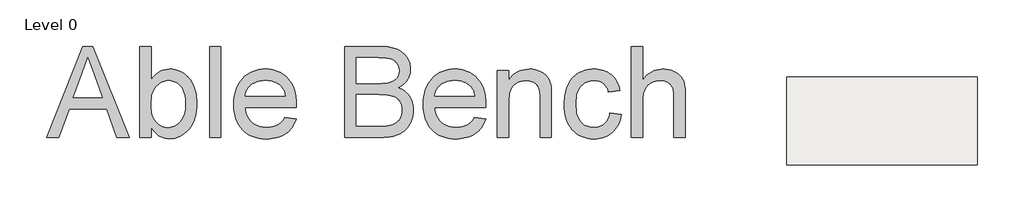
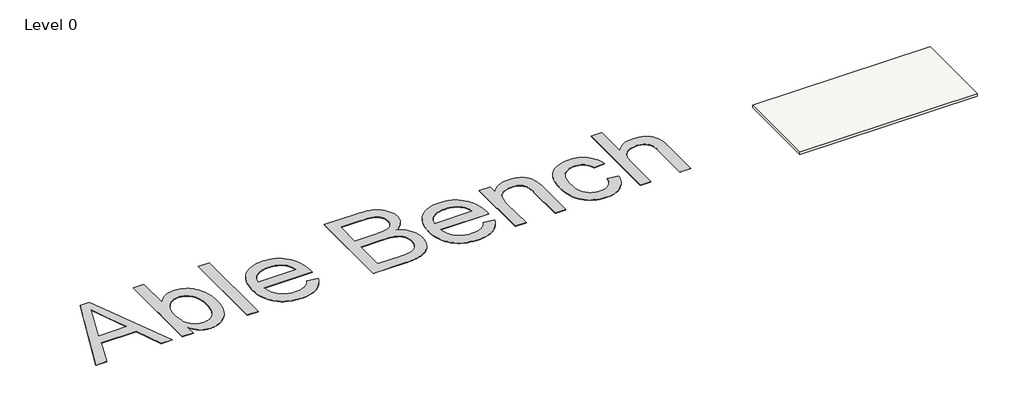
# One storey, incomplete: 1 proxy, 1 slab.
"""IFC4 building model written with IfcOpenShell, lengths in millimetres."""

from ifc_helpers import new_model, si_unit, frame, origin, origin_with_axes, place, context, project, spatial, polyline, outline, extrude, element, save

model = new_model("IFC4")

# Units and contexts
model_context = context("Model", 3, world=origin())
ifc_project = project(units=[si_unit("LENGTHUNIT", "METRE", prefix="MILLI")], contexts=[model_context])

# Site, building, storey
site = spatial("IfcSite", under=ifc_project)
building = spatial("IfcBuilding", under=site)
storey = spatial("IfcBuildingStorey", under=building, Name="Level 0", Elevation=0.0)

# Proxy
placement = place(None, origin())
element("IfcBuildingElementProxy", 1, Name="10 mm", ObjectType="10 mm", at=placement, inside=storey, context=model_context, shape_type="SweptSolid", body=[
    extrude(outline(polyline([(-186618.4644969, 70710.4267394), (-182608.5507494, 80756.0577544), (-181539.2404168, 80756.0577544), (-177529.3266694, 70710.4267394), (-178856.1543986, 70710.4267394), (-180006.3987702, 73849.6864316), (-184143.8449427, 73849.6864316), (-185291.6367676, 70710.4267394), (-186618.4644969, 70710.4267394)]), holes=[polyline([(-183682.7661754, 75105.3903085), (-180465.0249909, 75105.3903085), (-181370.014699, 77575.1047694), (-182073.8955831, 79500.3538775), (-182699.2949749, 77790.9288732), (-183682.7661754, 75105.3903085)])]), origin_with_axes(), (0.0, 0.0, 1.0), 50.0),
    extrude(outline(polyline([(-175089.042768, 70710.4267394), (-176344.7466449, 70710.4267394), (-176344.7466449, 80756.0577544), (-175089.042768, 80756.0577544), (-175089.042768, 77030.6394165), (-174889.2368594, 77315.1731472), (-174676.0952284, 77561.7690471), (-174449.6178752, 77770.4271162), (-174209.8047996, 77941.1473546), (-173956.6560016, 78073.9297622), (-173690.1714814, 78168.7743391), (-173410.3512388, 78225.6810853), (-173117.1952739, 78244.6500006), (-172952.1465496, 78240.3772045), (-172789.3204457, 78227.5588163), (-172628.7169622, 78206.1948358), (-172470.336099, 78176.2852632), (-172314.1778563, 78137.8300984), (-172160.2422339, 78090.8293414), (-172008.529232, 78035.2829922), (-171859.0388504, 77971.1910509), (-171713.9553885, 77899.3582592), (-171575.4631458, 77820.5893591), (-171443.5621221, 77734.8843505), (-171318.2523175, 77642.2432335), (-171199.5337319, 77542.6660081), (-171087.4063655, 77436.1526741), (-170981.8702181, 77322.7032318), (-170882.9252898, 77202.317681), (-170789.8626414, 77075.264269), (-170701.9733335, 76941.8112431), (-170619.2573661, 76801.9586034), (-170541.7147393, 76655.7063498), (-170469.3454531, 76503.0544823), (-170402.1495074, 76344.003001), (-170340.1269023, 76178.5519057), (-170283.2776377, 76006.7011966), (-170232.4064556, 75830.1369995), (-170188.3180977, 75650.5454401), (-170151.0125641, 75467.9265184), (-170120.4898548, 75282.2802345), (-170096.7499698, 75093.6065883), (-170079.7929091, 74901.9055799), (-170069.6186727, 74707.1772092), (-170066.2272606, 74509.4214763), (-170080.2719221, 74050.1054769), (-170122.4059069, 73617.6142063), (-170192.6292148, 73211.9476645), (-170290.9418459, 72833.1058516), (-170417.3438002, 72481.0887674), (-170571.8350777, 72155.8964121), (-170754.4156783, 71857.5287856), (-170965.0856021, 71585.9858879), (-171195.4525411, 71343.988513), (-171437.1241872, 71134.2574547), (-171690.1005404, 70956.7927131), (-171954.3816008, 70811.5942881), (-172229.9673683, 70698.6621798), (-172516.857843, 70617.9963881), (-172815.0530248, 70569.5969131), (-173124.5529138, 70553.4637548), (-173428.8603017, 70574.2720802), (-173716.3830735, 70636.6970562), (-173987.1212294, 70740.738683), (-174241.0747692, 70886.3969604), (-174478.2436929, 71073.6718886), (-174698.6280007, 71302.5634675), (-174902.2276924, 71573.0716971), (-175089.042768, 71885.1965773), (-175089.042768, 70710.4267394)]), holes=[polyline([(-175089.042768, 74450.560357), (-175083.6778223, 74157.0211817), (-175067.582985, 73884.6352211), (-175040.7582562, 73633.4024753), (-175003.2036358, 73403.3229441), (-174954.919124, 73194.3966277), (-174895.9047206, 73006.623526), (-174826.1604256, 72840.003639), (-174745.6862392, 72694.5369667), (-174599.7213934, 72487.0285288), (-174441.4171724, 72307.1878826), (-174270.7735761, 72155.0150282), (-174087.7906045, 72030.5099654), (-173892.4682577, 71933.6726944), (-173684.8065356, 71864.5032151), (-173464.8054383, 71823.0015275), (-173232.4649657, 71809.1676317), (-173041.3962545, 71819.3610286), (-172856.9187623, 71849.9412195), (-172679.0324892, 71900.9082042), (-172507.7374352, 71972.2619829), (-172343.0336003, 72064.0025554), (-172184.9209844, 72176.1299219), (-172033.3995877, 72308.6440822), (-171888.46941, 72461.5450365), (-171755.6870024, 72634.6411794), (-171640.6089157, 72827.7409058), (-171543.2351501, 73040.8442157), (-171463.5657056, 73273.9511091), (-171401.600582, 73527.061586), (-171357.3397795, 73800.1756464), (-171330.7832979, 74093.2932903), (-171321.9311374, 74406.4145176), (-171330.419248, 74726.088643), (-171355.8835799, 75024.1497012), (-171398.324133, 75300.5976921), (-171457.7409073, 75555.4326159), (-171534.1339029, 75788.6544724), (-171627.5031197, 76000.2632617), (-171737.8485577, 76190.2589838), (-171865.170217, 76358.6416387), (-172004.5246832, 76506.3692524), (-172150.968542, 76634.3998509), (-172304.5017934, 76742.7334343), (-172465.1244374, 76831.3700025), (-172632.8364741, 76900.3095555), (-172807.6379034, 76949.5520934), (-172989.5287252, 76979.0976162), (-173178.5089397, 76988.9461238), (-173369.577651, 76978.7527268), (-173554.0551432, 76948.172536), (-173731.9414162, 76897.2055512), (-173903.2364702, 76825.8517726), (-174067.9403052, 76734.1112), (-174226.052921, 76621.9838336), (-174377.5743178, 76489.4696732), (-174522.5044955, 76336.568719), (-174655.2869031, 76164.392281), (-174770.3649897, 75974.0516696), (-174867.7387553, 75765.5468846), (-174947.4081999, 75538.8779261), (-175009.3733235, 75294.0447941), (-175053.634126, 75031.0474886), (-175080.1906075, 74749.8860096), (-175089.042768, 74450.560357)])]), origin_with_axes(), (0.0, 0.0, 1.0), 50.0),
    extrude(outline(polyline([(-168653.5603991, 70710.4267394), (-168653.5603991, 80756.0577544), (-167397.8565222, 80756.0577544), (-167397.8565222, 70710.4267394), (-168653.5603991, 70710.4267394)])), origin_with_axes(), (0.0, 0.0, 1.0), 50.0),
    extrude(outline(polyline([(-160349.2374946, 72907.9085239), (-159118.0590841, 72750.9455393), (-159204.1856241, 72497.0686416), (-159306.8285329, 72257.8303816), (-159425.9878104, 72033.2307594), (-159561.6634566, 71823.2697748), (-159713.8554716, 71627.947428), (-159882.5638553, 71447.2637189), (-160067.7886078, 71281.2186476), (-160269.529729, 71129.8122139), (-160486.7908719, 70994.7305438), (-160718.5756894, 70877.6597631), (-160964.8841814, 70778.5998716), (-161225.7163481, 70697.5508696), (-161501.0721894, 70634.5127569), (-161790.9517053, 70589.4855335), (-162095.3548958, 70562.4691995), (-162414.2817609, 70553.4637548), (-162814.4683938, 70569.002937), (-163193.4251698, 70615.6204836), (-163551.1520891, 70693.3163945), (-163887.6491516, 70802.0906699), (-164202.9163572, 70941.9433096), (-164496.9537061, 71112.8743137), (-164769.7611981, 71314.8836822), (-165021.3388334, 71547.9714151), (-165247.241371, 71809.1101501), (-165443.0235703, 72095.272525), (-165608.6854313, 72406.4585398), (-165744.2269539, 72742.6681944), (-165849.6481381, 73103.901489), (-165924.948984, 73490.1584234), (-165970.1294915, 73901.4389977), (-165985.1896607, 74337.7432119), (-165969.9762074, 74788.8968295), (-165924.3358474, 75214.0687812), (-165848.2685806, 75613.259067), (-165741.7744072, 75986.4676869), (-165604.8533272, 76333.6946409), (-165437.5053404, 76654.939929), (-165239.730447, 76950.2035511), (-165011.5286468, 77219.4855074), (-164759.0696276, 77459.7584355), (-164488.523077, 77667.9949732), (-164199.888995, 77844.1951205), (-163893.1673815, 77988.3588773), (-163568.3582366, 78100.4862438), (-163225.4615602, 78180.5772198), (-162864.4773525, 78228.6318054), (-162485.4056133, 78244.6500006), (-162118.7307309, 78228.6701265), (-161769.1853539, 78180.730504), (-161436.7694823, 78100.8311331), (-161121.4831162, 77988.972014), (-160823.3262554, 77845.1531465), (-160542.2989, 77669.3745307), (-160278.40105, 77461.6361665), (-160031.6327054, 77221.938054), (-159808.3168381, 76953.2692344), (-159614.7764197, 76658.6187489), (-159451.0114502, 76337.9865975), (-159317.0219298, 75991.3727802), (-159212.8078584, 75618.7772969), (-159138.3692359, 75220.2001478), (-159093.7060624, 74795.6413327), (-159078.8183379, 74345.1008518), (-159086.1759778, 74006.6494162), (-164729.4857839, 74006.6494162), (-164702.1053999, 73748.3272777), (-164656.7524477, 73505.5634819), (-164593.4269272, 73278.3580289), (-164512.1288384, 73066.7109185), (-164412.8581812, 72870.6221509), (-164295.6149558, 72690.091726), (-164160.399162, 72525.1196437), (-164007.2108, 72375.7059042), (-163840.0352579, 72242.9234966), (-163662.8579241, 72127.84541), (-163475.6787985, 72030.4716444), (-163278.4978812, 71950.8021998), (-163071.3151722, 71888.8370763), (-162854.1306714, 71844.5762737), (-162626.9443788, 71818.0197922), (-162389.7562945, 71809.1676317), (-162212.7897264, 71813.2679831), (-162042.4143774, 71825.5690373), (-161878.6302475, 71846.0707943), (-161721.4373366, 71874.7732541), (-161570.8356449, 71911.6764168), (-161426.8251722, 71956.7802822), (-161289.4059185, 72010.0848505), (-161158.577884, 72071.5901216), (-161034.3410686, 72142.0625163), (-160916.6954722, 72222.2684554), (-160805.6410949, 72312.207939), (-160701.1779367, 72411.8809671), (-160603.3059975, 72521.2875396), (-160512.0252775, 72640.4276566), (-160427.3357765, 72769.301318), (-160349.2374946, 72907.9085239)]), holes=[polyline([(-164729.4857839, 75262.3532931), (-160334.5222148, 75262.3532931), (-160361.691833, 75445.9110802), (-160399.0548481, 75617.6659867), (-160446.6112602, 75777.6180126), (-160504.3610692, 75925.7671577), (-160572.3042752, 76062.1134222), (-160650.4408782, 76186.6568059), (-160738.7708781, 76299.3973091), (-160837.2942749, 76400.3349315), (-161002.6112465, 76538.2906797), (-161179.7310987, 76657.8523281), (-161368.6538317, 76759.0198768), (-161569.3794453, 76841.7933257), (-161781.9079396, 76906.1726748), (-162006.2393146, 76952.1579242), (-162242.3735702, 76979.7490739), (-162490.3107065, 76988.9461238), (-162715.6575891, 76981.6076444), (-162931.8457428, 76959.5922062), (-163138.8751677, 76922.8998093), (-163336.7458638, 76871.5304536), (-163525.457831, 76805.4841392), (-163705.0110694, 76724.760866), (-163875.4055789, 76629.360634), (-164036.6413596, 76519.2834433), (-164184.541418, 76396.9051983), (-164314.9287605, 76264.6018037), (-164427.8033873, 76122.3732594), (-164523.1652982, 75970.2195655), (-164601.0144934, 75808.1407218), (-164661.3509727, 75636.1367286), (-164704.1747362, 75454.2075857), (-164729.4857839, 75262.3532931)])]), origin_with_axes(), (0.0, 0.0, 1.0), 50.0),
    extrude(outline(polyline([(-153742.0768612, 70710.4267394), (-153742.0768612, 80756.0577544), (-149908.7464715, 80756.0577544), (-149623.5038016, 80751.4400689), (-149352.7081642, 80737.5870125), (-149096.3595593, 80714.4985852), (-148854.457987, 80682.174787), (-148627.0034472, 80640.6156179), (-148413.9959398, 80589.8210778), (-148215.4354651, 80529.7911668), (-148031.3220228, 80460.5258849), (-147859.2222269, 80381.6803427), (-147696.7026913, 80292.9096509), (-147543.763416, 80194.2138093), (-147400.4044011, 80085.5928182), (-147266.6256463, 79967.0466773), (-147142.4271519, 79838.5753868), (-147027.8089178, 79700.1789467), (-146922.770944, 79551.8573568), (-146828.7885905, 79397.6534872), (-146747.3372175, 79241.6102076), (-146678.416825, 79083.727518), (-146622.0274129, 78924.0054184), (-146578.1689813, 78762.4439088), (-146546.8415302, 78599.0429893), (-146528.0450595, 78433.8026598), (-146521.7795692, 78266.7229203), (-146527.0487124, 78112.1166798), (-146542.8561419, 77959.7713806), (-146569.2018577, 77809.6870229), (-146606.0858598, 77661.8636066), (-146653.5081482, 77516.3011317), (-146711.468723, 77372.9995983), (-146779.9675841, 77231.9590063), (-146859.0047315, 77093.1793557), (-146948.6951283, 76958.8449459), (-147049.1537377, 76831.1400762), (-147160.3805597, 76710.0647467), (-147282.3755943, 76595.6189573), (-147415.1388414, 76487.8027079), (-147558.6703011, 76386.6159987), (-147712.9699733, 76292.0588297), (-147878.0378581, 76204.1312007), (-147682.7346718, 76129.4051704), (-147499.042761, 76042.5696912), (-147326.9621257, 75943.6247629), (-147166.4927658, 75832.5703856), (-147017.6346814, 75709.4065593), (-146880.3878725, 75574.133284), (-146754.752339, 75426.7505597), (-146640.728081, 75267.2583863), (-146539.2731245, 75097.9943475), (-146451.3454956, 74921.2960267), (-146376.9451942, 74737.1634239), (-146316.0722203, 74545.5965391), (-146268.7265739, 74346.5953724), (-146234.9082551, 74140.1599236), (-146214.6172638, 73926.2901929), (-146207.8536, 73704.9861801), (-146212.4712855, 73525.0880524), (-146226.3243419, 73348.3705711), (-146249.4127692, 73174.8337362), (-146281.7365674, 73004.4775477), (-146323.2957365, 72837.3020056), (-146374.0902766, 72673.3071099), (-146434.1201876, 72512.4928607), (-146503.3854695, 72354.8592579), (-146579.4718967, 72203.29954), (-146659.9652437, 72060.7069459), (-146744.8655104, 71927.0814753), (-146834.1726968, 71802.4231284), (-146927.886803, 71686.7319052), (-147026.0078289, 71580.0078055), (-147128.5357745, 71482.2508295), (-147235.4706399, 71393.4609771), (-147348.0386983, 71311.7221963), (-147467.4662231, 71235.118435), (-147593.7532142, 71163.6496933), (-147726.8996718, 71097.315971), (-147866.9055957, 71036.1172683), (-148013.7709859, 70980.053585), (-148167.4958426, 70929.1249213), (-148328.0801656, 70883.3312771), (-148496.7502282, 70842.8067761), (-148674.7323039, 70807.6855419), (-148862.0263926, 70777.9675745), (-149058.6324943, 70753.6528738), (-149264.550609, 70734.74144), (-149479.7807367, 70721.233273), (-149704.3228774, 70713.1283728), (-149938.1770311, 70710.4267394), (-153742.0768612, 70710.4267394)]), holes=[polyline([(-152486.3729844, 71966.1306163), (-149911.1990181, 71966.1306163), (-149604.6306888, 71969.1962996), (-149347.1132922, 71978.3933495), (-149138.6468283, 71993.7217659), (-148979.231297, 72015.181549), (-148863.9041236, 72037.1586661), (-148753.3670804, 72062.6229979), (-148647.6201673, 72091.5745445), (-148546.6633844, 72124.0133059), (-148450.4967316, 72159.939282), (-148359.1202089, 72199.3524728), (-148272.5338164, 72242.2528784), (-148190.737554, 72288.6404987), (-148113.0991246, 72339.4733598), (-148038.986231, 72395.7094877), (-147968.3988732, 72457.3488824), (-147901.3370512, 72524.391544), (-147837.8007649, 72596.8374723), (-147777.7900144, 72674.6866674), (-147721.3047998, 72757.9391293), (-147668.3451209, 72846.5948581), (-147620.3480168, 72939.7533091), (-147578.7505266, 73036.5139381), (-147543.5526503, 73136.8767449), (-147514.7543879, 73240.8417296), (-147492.3557393, 73348.4088921), (-147476.3567046, 73459.5782325), (-147466.7572838, 73574.3497508), (-147463.5574769, 73692.723447), (-147467.3129389, 73830.8324793), (-147478.579325, 73964.3429867), (-147497.3566352, 74093.2549692), (-147523.6448694, 74217.5684268), (-147557.4440277, 74337.2833594), (-147598.7541101, 74452.399767), (-147647.5751166, 74562.9176497), (-147703.9070471, 74668.8370075), (-147768.6504461, 74768.6058382), (-147842.7058582, 74860.6721396), (-147926.0732832, 74945.0359117), (-148018.7527213, 75021.6971546), (-148120.7441723, 75090.6558681), (-148232.0476364, 75151.9120524), (-148352.6631135, 75205.4657075), (-148482.5906035, 75251.3168332), (-148624.5892216, 75290.691703), (-148781.4180825, 75324.8165902), (-148953.0771864, 75353.6914947), (-149139.5665333, 75377.3164166), (-149340.886123, 75395.6913558), (-149557.0359557, 75408.8163124), (-149788.0160313, 75416.6912864), (-150033.8263499, 75419.3162777), (-152486.3729844, 75419.3162777), (-152486.3729844, 71966.1306163)]), polyline([(-152486.3729844, 76675.0201545), (-150193.2418811, 76675.0201545), (-149967.9141591, 76676.7062804), (-149759.1411268, 76681.7646578), (-149566.9227843, 76690.1952868), (-149391.2591316, 76701.9981675), (-149232.1501687, 76717.1732998), (-149089.5958956, 76735.7206837), (-148963.5963122, 76757.6403193), (-148854.1514187, 76782.9322065), (-148724.607139, 76820.7742346), (-148603.3018832, 76864.40274), (-148490.2356512, 76913.8177226), (-148385.4084431, 76969.0191824), (-148288.8202589, 77030.0071194), (-148200.4710985, 77096.7815336), (-148120.3609619, 77169.342425), (-148048.4898492, 77247.6897937), (-147984.9727235, 77331.5553923), (-147929.9245479, 77420.6709735), (-147883.3453223, 77515.0365374), (-147845.2350469, 77614.6520839), (-147815.5937215, 77719.517613), (-147794.4213463, 77829.6331248), (-147781.7179212, 77944.9986192), (-147777.4834461, 78065.6140963), (-147781.4305133, 78180.3472936), (-147793.2717151, 78291.554955), (-147813.0070513, 78399.2370807), (-147840.6365219, 78503.3936706), (-147876.1601271, 78604.0247247), (-147919.5778667, 78701.130243), (-147970.8897409, 78794.7102255), (-148030.0957495, 78884.7646722), (-148096.659398, 78969.5882969), (-148170.0441918, 79047.475813), (-148250.250131, 79118.4272207), (-148337.2772154, 79182.44252), (-148431.1254452, 79239.5217108), (-148531.7948204, 79289.6647932), (-148639.2853409, 79332.8717671), (-148753.5970066, 79369.1426326), (-148881.8192104, 79399.8952681), (-149031.0413447, 79426.5475522), (-149201.2634095, 79449.0994849), (-149392.4854049, 79467.5510663), (-149604.7073309, 79481.9022962), (-149837.9291874, 79492.1531747), (-150092.1509745, 79498.3037018), (-150367.3726922, 79500.3538775), (-152486.3729844, 79500.3538775), (-152486.3729844, 76675.0201545)])]), origin_with_axes(), (0.0, 0.0, 1.0), 50.0),
    extrude(outline(polyline([(-139473.1605417, 72907.9085239), (-138241.9821311, 72750.9455393), (-138328.1086711, 72497.0686416), (-138430.7515799, 72257.8303816), (-138549.9108574, 72033.2307594), (-138685.5865036, 71823.2697748), (-138837.7785186, 71627.947428), (-139006.4869024, 71447.2637189), (-139191.7116548, 71281.2186476), (-139393.452776, 71129.8122139), (-139610.7139189, 70994.7305438), (-139842.4987364, 70877.6597631), (-140088.8072285, 70778.5998716), (-140349.6393952, 70697.5508696), (-140624.9952364, 70634.5127569), (-140914.8747523, 70589.4855335), (-141219.2779428, 70562.4691995), (-141538.2048079, 70553.4637548), (-141938.3914408, 70569.002937), (-142317.3482169, 70615.6204836), (-142675.0751361, 70693.3163945), (-143011.5721986, 70802.0906699), (-143326.8394043, 70941.9433096), (-143620.8767531, 71112.8743137), (-143893.6842452, 71314.8836822), (-144145.2618804, 71547.9714151), (-144371.1644181, 71809.1101501), (-144566.9466174, 72095.272525), (-144732.6084783, 72406.4585398), (-144868.1500009, 72742.6681944), (-144973.5711852, 73103.901489), (-145048.872031, 73490.1584234), (-145094.0525386, 73901.4389977), (-145109.1127078, 74337.7432119), (-145093.8992544, 74788.8968295), (-145048.2588944, 75214.0687812), (-144972.1916277, 75613.259067), (-144865.6974543, 75986.4676869), (-144728.7763742, 76333.6946409), (-144561.4283874, 76654.939929), (-144363.653494, 76950.2035511), (-144135.4516939, 77219.4855074), (-143882.9926747, 77459.7584355), (-143612.446124, 77667.9949732), (-143323.812042, 77844.1951205), (-143017.0904285, 77988.3588773), (-142692.2812836, 78100.4862438), (-142349.3846073, 78180.5772198), (-141988.4003995, 78228.6318054), (-141609.3286603, 78244.6500006), (-141242.6537779, 78228.6701265), (-140893.108401, 78180.730504), (-140560.6925294, 78100.8311331), (-140245.4061632, 77988.972014), (-139947.2493024, 77845.1531465), (-139666.221947, 77669.3745307), (-139402.3240971, 77461.6361665), (-139155.5557525, 77221.938054), (-138932.2398851, 76953.2692344), (-138738.6994667, 76658.6187489), (-138574.9344973, 76337.9865975), (-138440.9449769, 75991.3727802), (-138336.7309054, 75618.7772969), (-138262.2922829, 75220.2001478), (-138217.6291095, 74795.6413327), (-138202.741385, 74345.1008518), (-138210.0990249, 74006.6494162), (-143853.4088309, 74006.6494162), (-143826.028447, 73748.3272777), (-143780.6754948, 73505.5634819), (-143717.3499742, 73278.3580289), (-143636.0518854, 73066.7109185), (-143536.7812283, 72870.6221509), (-143419.5380028, 72690.091726), (-143284.3222091, 72525.1196437), (-143131.133847, 72375.7059042), (-142963.9583049, 72242.9234966), (-142786.7809711, 72127.84541), (-142599.6018456, 72030.4716444), (-142402.4209282, 71950.8021998), (-142195.2382192, 71888.8370763), (-141978.0537184, 71844.5762737), (-141750.8674259, 71818.0197922), (-141513.6793416, 71809.1676317), (-141336.7127735, 71813.2679831), (-141166.3374245, 71825.5690373), (-141002.5532945, 71846.0707943), (-140845.3603837, 71874.7732541), (-140694.7586919, 71911.6764168), (-140550.7482192, 71956.7802822), (-140413.3289656, 72010.0848505), (-140282.500931, 72071.5901216), (-140158.2641156, 72142.0625163), (-140040.6185192, 72222.2684554), (-139929.5641419, 72312.207939), (-139825.1009837, 72411.8809671), (-139727.2290446, 72521.2875396), (-139635.9483245, 72640.4276566), (-139551.2588235, 72769.301318), (-139473.1605417, 72907.9085239)]), holes=[polyline([(-143853.4088309, 75262.3532931), (-139458.4452618, 75262.3532931), (-139485.61488, 75445.9110802), (-139522.9778952, 75617.6659867), (-139570.5343072, 75777.6180126), (-139628.2841163, 75925.7671577), (-139696.2273223, 76062.1134222), (-139774.3639252, 76186.6568059), (-139862.6939251, 76299.3973091), (-139961.2173219, 76400.3349315), (-140126.5342935, 76538.2906797), (-140303.6541458, 76657.8523281), (-140492.5768787, 76759.0198768), (-140693.3024923, 76841.7933257), (-140905.8309866, 76906.1726748), (-141130.1623616, 76952.1579242), (-141366.2966172, 76979.7490739), (-141614.2337536, 76988.9461238), (-141839.5806361, 76981.6076444), (-142055.7687899, 76959.5922062), (-142262.7982148, 76922.8998093), (-142460.6689108, 76871.5304536), (-142649.380878, 76805.4841392), (-142828.9341164, 76724.760866), (-142999.3286259, 76629.360634), (-143160.5644066, 76519.2834433), (-143308.464465, 76396.9051983), (-143438.8518076, 76264.6018037), (-143551.7264343, 76122.3732594), (-143647.0883453, 75970.2195655), (-143724.9375404, 75808.1407218), (-143785.2740197, 75636.1367286), (-143828.0977832, 75454.2075857), (-143853.4088309, 75262.3532931)])]), origin_with_axes(), (0.0, 0.0, 1.0), 50.0),
    extrude(outline(polyline([(-136947.0375081, 70710.4267394), (-136947.0375081, 78087.687016), (-135691.3336312, 78087.687016), (-135691.3336312, 77057.6174295), (-135484.1700827, 77335.8281884), (-135255.0868986, 77576.9441794), (-135004.084079, 77780.9654025), (-134731.1616238, 77947.8918579), (-134436.3195331, 78077.7235453), (-134119.5578068, 78170.4604649), (-133780.876445, 78226.1026167), (-133420.2754477, 78244.6500006), (-133260.6491507, 78240.9136991), (-133104.2801422, 78229.7047946), (-132951.1684223, 78211.023287), (-132801.3139908, 78184.8691764), (-132654.7168478, 78151.2424628), (-132511.3769933, 78110.1431461), (-132371.2944274, 78061.5712265), (-132234.4691499, 78005.5267038), (-132103.5261522, 77943.408296), (-131981.0904257, 77876.6147213), (-131867.1619703, 77805.1459795), (-131761.7407861, 77729.0020707), (-131664.826873, 77648.1829949), (-131576.420231, 77562.6887521), (-131496.5208602, 77472.5193422), (-131425.1287605, 77377.6747653), (-131360.5003246, 77278.212503), (-131300.891945, 77174.1900367), (-131246.3036219, 77065.6073666), (-131196.7353552, 76952.4644926), (-131152.1871448, 76834.7614146), (-131112.6589908, 76712.4981328), (-131078.1508933, 76585.6746471), (-131048.6628521, 76454.2909574), (-131033.1428304, 76359.6763068), (-131019.692145, 76248.7368926), (-131008.3107958, 76121.4727149), (-130998.9987828, 75977.8837737), (-130986.5827654, 75641.7316006), (-130982.444093, 75240.2803734), (-130982.444093, 70710.4267394), (-132238.1479698, 70710.4267394), (-132238.1479698, 75071.0546556), (-132240.4089113, 75250.9719438), (-132247.1917356, 75419.1629935), (-132258.4964427, 75575.6278046), (-132274.3230327, 75720.3663771), (-132294.6715056, 75853.3787109), (-132319.5418613, 75974.6648062), (-132348.9340998, 76084.2246629), (-132382.8482213, 76182.058281), (-132422.4913384, 76271.7103568), (-132469.0705639, 76356.7255866), (-132522.5858979, 76437.1039705), (-132583.0373403, 76512.8455083), (-132650.4248912, 76583.9502002), (-132724.7485505, 76650.4180461), (-132806.0083183, 76712.249046), (-132894.2041946, 76769.4432), (-132987.8799797, 76820.8891977), (-133085.5794741, 76865.4757291), (-133187.3026779, 76903.2027942), (-133293.049591, 76934.0703928), (-133402.8202134, 76958.0785251), (-133516.6145452, 76975.227191), (-133634.4325862, 76985.5163906), (-133756.2743366, 76988.9461238), (-133950.3129285, 76981.2435945), (-134137.5686962, 76958.1360067), (-134318.0416396, 76919.6233603), (-134491.7317586, 76865.7056554), (-134658.6390534, 76796.3828919), (-134818.7635239, 76711.6550699), (-134972.1051701, 76611.5221893), (-135118.6639921, 76495.9842502), (-135252.8834388, 76358.909886), (-135369.2069592, 76194.16773), (-135467.6345534, 76001.7577823), (-135548.1662214, 75781.6800429), (-135610.8019632, 75533.9345118), (-135655.5417788, 75258.5211889), (-135682.3856681, 74955.4400744), (-135691.3336312, 74624.6911681), (-135691.3336312, 70710.4267394), (-136947.0375081, 70710.4267394)])), origin_with_axes(), (0.0, 0.0, 1.0), 50.0),
    extrude(outline(polyline([(-124546.961724, 73378.7974778), (-123291.2578471, 73221.8344932), (-123349.9273612, 72917.0480923), (-123427.8340379, 72629.3145547), (-123524.9778772, 72358.6338804), (-123641.3588792, 72105.0060695), (-123776.9770439, 71868.4311218), (-123931.8323712, 71648.9090375), (-124105.9248613, 71446.4398165), (-124299.2545139, 71261.0234589), (-124507.9509041, 71095.1891532), (-124728.1436066, 70951.4660883), (-124959.8326215, 70829.8542642), (-125203.0179487, 70730.3536808), (-125457.6995883, 70652.9643382), (-125723.8775402, 70597.6862363), (-126001.5518045, 70564.5193752), (-126290.7223811, 70553.4637548), (-126651.9556757, 70568.8879739), (-126994.9864757, 70615.1606311), (-127319.8147811, 70692.2817264), (-127626.440592, 70800.2512599), (-127914.8639083, 70939.0692315), (-128185.0847301, 71108.7356413), (-128437.1030573, 71309.2504892), (-128670.9188899, 71540.6137752), (-128881.5888137, 71800.7944842), (-129064.1694144, 72087.7616009), (-129218.6606918, 72401.5151255), (-129345.0626461, 72742.0550578), (-129443.3752772, 73109.3813979), (-129513.5985851, 73503.4941457), (-129555.7325699, 73924.3933013), (-129569.7772315, 74372.0788647), (-129563.7799885, 74665.4072743), (-129545.7882597, 74949.4236709), (-129515.802045, 75224.1280545), (-129473.8213444, 75489.5204251), (-129419.8461579, 75745.6007827), (-129353.8764856, 75992.3691272), (-129275.9123273, 76229.8254588), (-129185.9536832, 76457.9697774), (-129083.7131454, 76674.4644994), (-128968.903306, 76876.9720415), (-128841.5241652, 77065.4924035), (-128701.5757229, 77240.0255855), (-128549.057979, 77400.5715874), (-128383.9709337, 77547.1304094), (-128206.3145869, 77679.7020513), (-128016.0889385, 77798.2865132), (-127817.4518217, 77902.9029555), (-127614.5610692, 77993.5705389), (-127407.4166812, 78070.2892633), (-127196.0186576, 78133.0591288), (-126980.3669985, 78181.8801352), (-126760.4617037, 78216.7522827), (-126536.3027735, 78237.6755711), (-126307.8902076, 78244.6500006), (-126022.6858587, 78235.0697403), (-125750.7789111, 78206.3289595), (-125492.1693648, 78158.427658), (-125246.8572198, 78091.365836), (-125014.8424761, 78005.1434934), (-124796.1251337, 77899.7606302), (-124590.7051925, 77775.2172464), (-124398.5826526, 77631.513342), (-124221.4436398, 77470.1817587), (-124060.97428, 77292.7553381), (-123917.174573, 77099.2340802), (-123790.0445189, 76889.6179851), (-123679.5841178, 76663.9070526), (-123585.7933695, 76422.1012829), (-123508.6722742, 76164.2006758), (-123448.2208317, 75890.2052315), (-124703.9247086, 75733.2422469), (-124748.9710925, 75884.7444831), (-124801.9499319, 76026.551496), (-124862.8612268, 76158.6632854), (-124931.7049773, 76281.0798514), (-125008.4811833, 76393.801194), (-125093.1898448, 76496.8273131), (-125185.8309618, 76590.1582089), (-125286.4045343, 76673.7938812), (-125393.6842891, 76747.6576881), (-125506.4439527, 76811.6729873), (-125624.6835252, 76865.839779), (-125748.4030066, 76910.1580631), (-125877.6023969, 76944.6278397), (-126012.281696, 76969.2491086), (-126152.4409041, 76984.02187), (-126298.0800211, 76988.9461238), (-126516.6440793, 76979.2509003), (-126724.7464934, 76950.1652301), (-126922.3872632, 76901.689113), (-127109.5663887, 76833.8225491), (-127286.2838701, 76746.5655384), (-127452.5397072, 76639.9180808), (-127608.3339, 76513.8801764), (-127753.6664486, 76368.4518252), (-127885.0118172, 76202.0618645), (-127998.84447, 76013.1391316), (-128095.164407, 75801.6836264), (-128173.9716281, 75567.6953491), (-128235.2661335, 75311.1742995), (-128279.047923, 75032.1204777), (-128305.3169967, 74730.5338838), (-128314.0733546, 74406.4145176), (-128305.5086019, 74077.1792925), (-128279.8143438, 73771.2815814), (-128236.9905803, 73488.7213843), (-128177.0373114, 73229.4987014), (-128099.9545371, 72993.6135325), (-128005.7422574, 72781.0658777), (-127894.4004723, 72591.8557369), (-127765.9291818, 72425.9831103), (-127623.6239954, 72281.4169825), (-127470.7805228, 72156.1263384), (-127307.3987638, 72050.111178), (-127133.4787184, 71963.3715013), (-126949.0203868, 71895.9073083), (-126754.0237688, 71847.7185991), (-126548.4888645, 71818.8053735), (-126332.4156739, 71809.1676317), (-126158.878839, 71815.1840351), (-125992.661323, 71833.2332455), (-125833.7631258, 71863.3152628), (-125682.1842475, 71905.4300871), (-125537.924688, 71959.5777182), (-125400.9844474, 72025.7581563), (-125271.3635257, 72103.9714013), (-125149.0619228, 72194.2174533), (-125035.8424067, 72296.9561647), (-124933.4677452, 72412.6473879), (-124841.9379384, 72541.2911231), (-124761.2529862, 72682.8873702), (-124691.4128887, 72837.4361292), (-124632.4176458, 73004.9374002), (-124584.2672576, 73185.391183), (-124546.961724, 73378.7974778)])), origin_with_axes(), (0.0, 0.0, 1.0), 50.0),
    extrude(outline(polyline([(-122192.5169549, 70710.4267394), (-122192.5169549, 80756.0577544), (-120936.813078, 80756.0577544), (-120936.813078, 77062.5225228), (-120713.2864449, 77339.5836504), (-120475.5810266, 77579.7032943), (-120223.696823, 77782.8814546), (-119957.6338342, 77949.1181312), (-119677.3920601, 78078.4133241), (-119382.9715009, 78170.7670333), (-119074.3721564, 78226.1792588), (-118751.5940267, 78244.6500006), (-118551.9797232, 78239.6107837), (-118359.033281, 78224.493133), (-118172.7546999, 78199.2970484), (-117993.1439799, 78164.02253), (-117820.2011212, 78118.6695778), (-117653.9261236, 78063.2381918), (-117494.3189871, 77997.7283719), (-117341.3797118, 77922.1401182), (-117197.1009918, 77837.6613829), (-117063.4755213, 77745.4801184), (-116940.5033002, 77645.5963246), (-116828.1843285, 77538.0100016), (-116726.5186063, 77422.7211492), (-116635.5061336, 77299.7297676), (-116555.1469102, 77169.0358567), (-116485.4409364, 77030.6394165), (-116425.0852965, 76880.3826141), (-116372.7770753, 76714.1076165), (-116328.5162728, 76531.8144237), (-116292.3028889, 76333.5030357), (-116264.1369236, 76119.1734525), (-116244.018377, 75888.825674), (-116231.9472491, 75642.4597004), (-116227.9235397, 75380.0755315), (-116227.9235397, 70710.4267394), (-117483.6274166, 70710.4267394), (-117483.6274166, 75250.0905599), (-117489.8737463, 75469.8234099), (-117508.6127355, 75674.0745593), (-117539.844384, 75862.8440081), (-117583.568692, 76036.1317563), (-117639.7856594, 76193.9378038), (-117708.4952862, 76336.2621507), (-117789.6975724, 76463.1047969), (-117883.392518, 76574.4657425), (-117988.545455, 76671.6095819), (-118104.1217151, 76755.8009093), (-118230.1212985, 76827.0397248), (-118366.544205, 76885.3260285), (-118513.3904348, 76930.6598202), (-118670.6599877, 76963.0410999), (-118838.3528639, 76982.4698678), (-119016.4690632, 76988.9461238), (-119152.1830305, 76984.5775251), (-119285.8659826, 76971.471729), (-119417.5179195, 76949.6287355), (-119547.1388412, 76919.0485447), (-119674.7287478, 76879.7311564), (-119800.2876392, 76831.6765708), (-119923.8155154, 76774.8847878), (-120045.3123764, 76709.3558074), (-120161.4634521, 76636.354224), (-120268.9539726, 76557.1446319), (-120367.7839378, 76471.7270312), (-120457.9533476, 76380.1014217), (-120539.4622022, 76282.2678037), (-120612.3105014, 76178.2261769), (-120676.4982454, 76067.9765415), (-120732.025434, 75951.5188974), (-120780.0225381, 75826.2474138), (-120821.6200283, 75689.55626), (-120856.8179046, 75541.4454359), (-120885.616167, 75381.9149415), (-120908.0148156, 75210.9647769), (-120924.0138503, 75028.594942), (-120933.6132711, 74834.8054368), (-120936.813078, 74629.5962614), (-120936.813078, 70710.4267394), (-122192.5169549, 70710.4267394)])), origin_with_axes(), (0.0, 0.0, 1.0), 50.0),
])

# Slab
element("IfcSlab", 2, ObjectType="FL_300 mm_Generic", at=placement, inside=storey, context=model_context, shape_type="SweptSolid", body=[
    extrude(outline(polyline([(-84047.8885325, 77369.9753886), (-84047.8885325, 67649.9753886), (-105047.8885325, 67649.9753886), (-105047.8885325, 77369.9753886), (-84047.8885325, 77369.9753886)])), frame((0.0, 0.0, -300.0), z_axis=(0.0, 0.0, 1.0), x_axis=(1.0, 0.0, 0.0)), (0.0, 0.0, 1.0), 300.0),
])

save(model, "model.ifc")
